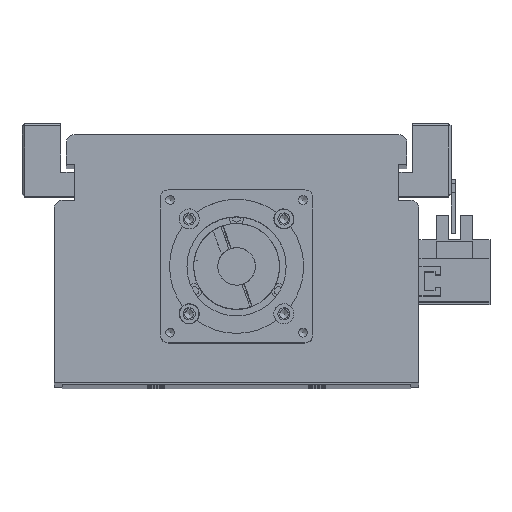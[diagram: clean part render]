
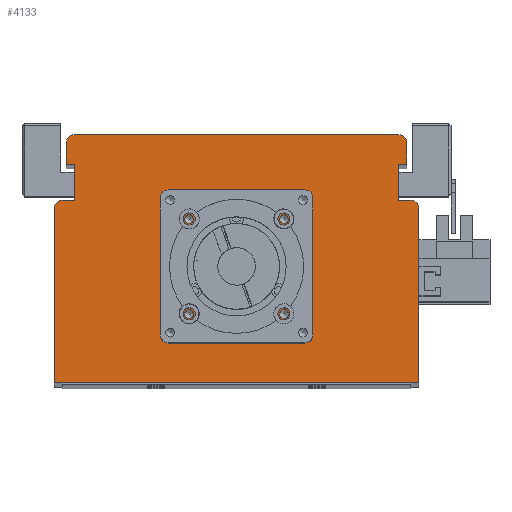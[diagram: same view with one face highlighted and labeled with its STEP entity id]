
A CAD part, top view. The second image highlights one B-rep face of the part: STEP entity #4133.
In plain terms, the highlighted planar face has unit normal (0, 0, 1).
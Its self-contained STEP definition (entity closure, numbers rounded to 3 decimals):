
#2691=CARTESIAN_POINT('',(19.321,61.5,995.));
#2692=VERTEX_POINT('',#2691);
#2693=CARTESIAN_POINT('',(17.7,61.5,995.));
#2694=DIRECTION('',(0.0,0.0,-1.0));
#2695=DIRECTION('',(1.0,0.0,0.0));
#2696=AXIS2_PLACEMENT_3D('',#2693,#2694,#2695);
#2697=CIRCLE('',#2696,1.621);
#2698=EDGE_CURVE('',#2692,#2692,#2697,.T.);
#2770=CARTESIAN_POINT('',(19.321,26.1,995.));
#2771=VERTEX_POINT('',#2770);
#2772=CARTESIAN_POINT('',(17.7,26.1,995.));
#2773=DIRECTION('',(0.0,0.0,-1.0));
#2774=DIRECTION('',(1.0,0.0,0.0));
#2775=AXIS2_PLACEMENT_3D('',#2772,#2773,#2774);
#2776=CIRCLE('',#2775,1.621);
#2777=EDGE_CURVE('',#2771,#2771,#2776,.T.);
#2849=CARTESIAN_POINT('',(-16.079,26.1,995.));
#2850=VERTEX_POINT('',#2849);
#2851=CARTESIAN_POINT('',(-17.7,26.1,995.));
#2852=DIRECTION('',(0.0,0.0,-1.0));
#2853=DIRECTION('',(1.0,0.0,0.0));
#2854=AXIS2_PLACEMENT_3D('',#2851,#2852,#2853);
#2855=CIRCLE('',#2854,1.621);
#2856=EDGE_CURVE('',#2850,#2850,#2855,.T.);
#2928=CARTESIAN_POINT('',(-16.079,61.5,995.));
#2929=VERTEX_POINT('',#2928);
#2930=CARTESIAN_POINT('',(-17.7,61.5,995.));
#2931=DIRECTION('',(0.0,0.0,-1.0));
#2932=DIRECTION('',(1.0,0.0,0.0));
#2933=AXIS2_PLACEMENT_3D('',#2930,#2931,#2932);
#2934=CIRCLE('',#2933,1.621);
#2935=EDGE_CURVE('',#2929,#2929,#2934,.T.);
#2969=CARTESIAN_POINT('',(26.5,43.8,995.));
#2970=VERTEX_POINT('',#2969);
#2971=CARTESIAN_POINT('',(24.5,43.8,995.));
#2972=DIRECTION('',(0.0,0.0,-1.0));
#2973=DIRECTION('',(1.0,0.0,0.0));
#2974=AXIS2_PLACEMENT_3D('',#2971,#2972,#2973);
#2975=CIRCLE('',#2974,2.0);
#2976=EDGE_CURVE('',#2970,#2970,#2975,.T.);
#3018=CARTESIAN_POINT('',(-22.5,43.8,995.));
#3019=VERTEX_POINT('',#3018);
#3020=CARTESIAN_POINT('',(-24.5,43.8,995.));
#3021=DIRECTION('',(0.0,0.0,-1.0));
#3022=DIRECTION('',(1.0,0.0,0.0));
#3023=AXIS2_PLACEMENT_3D('',#3020,#3021,#3022);
#3024=CIRCLE('',#3023,2.0);
#3025=EDGE_CURVE('',#3019,#3019,#3024,.T.);
#3949=CARTESIAN_POINT('',(21.05,43.8,995.));
#3950=VERTEX_POINT('',#3949);
#3951=CARTESIAN_POINT('',(0.0,43.8,995.));
#3952=DIRECTION('',(0.0,0.0,-1.0));
#3953=DIRECTION('',(-1.0,0.0,0.0));
#3954=AXIS2_PLACEMENT_3D('',#3951,#3952,#3953);
#3955=CIRCLE('',#3954,21.05);
#3956=EDGE_CURVE('',#3950,#3950,#3955,.T.);
#3973=CARTESIAN_POINT('',(0.,29.533,995.));
#3974=DIRECTION('',(0.0,0.0,1.0));
#3975=DIRECTION('',(1.0,0.0,0.0));
#3976=AXIS2_PLACEMENT_3D('',#3973,#3974,#3975);
#3977=PLANE('',#3976);
#3978=CARTESIAN_POINT('',(-65.,68.5,995.));
#3979=VERTEX_POINT('',#3978);
#3980=CARTESIAN_POINT('',(-60.5,68.5,995.0));
#3981=VERTEX_POINT('',#3980);
#3982=CARTESIAN_POINT('',(-65.,68.5,995.));
#3983=DIRECTION('',(1.0,0.0,0.0));
#3984=VECTOR('',#3983,4.5);
#3985=LINE('',#3982,#3984);
#3986=EDGE_CURVE('',#3979,#3981,#3985,.T.);
#3987=ORIENTED_EDGE('',*,*,#3986,.F.);
#3988=CARTESIAN_POINT('',(-68.,65.5,995.));
#3989=VERTEX_POINT('',#3988);
#3990=CARTESIAN_POINT('',(-65.,65.5,995.0));
#3991=DIRECTION('',(0.0,0.0,-1.0));
#3992=DIRECTION('',(0.0,1.0,0.0));
#3993=AXIS2_PLACEMENT_3D('',#3990,#3991,#3992);
#3994=CIRCLE('',#3993,3.);
#3995=EDGE_CURVE('',#3989,#3979,#3994,.T.);
#3996=ORIENTED_EDGE('',*,*,#3995,.F.);
#3997=CARTESIAN_POINT('',(-68.0,0.5,995.));
#3998=VERTEX_POINT('',#3997);
#3999=CARTESIAN_POINT('',(-68.0,0.5,995.));
#4000=DIRECTION('',(0.0,1.0,0.0));
#4001=VECTOR('',#4000,65.0);
#4002=LINE('',#3999,#4001);
#4003=EDGE_CURVE('',#3998,#3989,#4002,.T.);
#4004=ORIENTED_EDGE('',*,*,#4003,.F.);
#4005=CARTESIAN_POINT('',(68.0,0.5,995.));
#4006=VERTEX_POINT('',#4005);
#4007=CARTESIAN_POINT('',(68.0,0.5,995.));
#4008=DIRECTION('',(-1.0,0.0,0.0));
#4009=VECTOR('',#4008,136.0);
#4010=LINE('',#4007,#4009);
#4011=EDGE_CURVE('',#4006,#3998,#4010,.T.);
#4012=ORIENTED_EDGE('',*,*,#4011,.F.);
#4013=CARTESIAN_POINT('',(68.0,65.5,995.));
#4014=VERTEX_POINT('',#4013);
#4015=CARTESIAN_POINT('',(68.0,65.5,995.));
#4016=DIRECTION('',(0.0,-1.0,0.0));
#4017=VECTOR('',#4016,65.0);
#4018=LINE('',#4015,#4017);
#4019=EDGE_CURVE('',#4014,#4006,#4018,.T.);
#4020=ORIENTED_EDGE('',*,*,#4019,.F.);
#4021=CARTESIAN_POINT('',(65.,68.5,995.));
#4022=VERTEX_POINT('',#4021);
#4023=CARTESIAN_POINT('',(65.,65.5,995.0));
#4024=DIRECTION('',(0.0,0.0,-1.0));
#4025=DIRECTION('',(1.0,0.0,0.0));
#4026=AXIS2_PLACEMENT_3D('',#4023,#4024,#4025);
#4027=CIRCLE('',#4026,3.);
#4028=EDGE_CURVE('',#4022,#4014,#4027,.T.);
#4029=ORIENTED_EDGE('',*,*,#4028,.F.);
#4030=CARTESIAN_POINT('',(60.5,68.5,995.0));
#4031=VERTEX_POINT('',#4030);
#4032=CARTESIAN_POINT('',(60.5,68.5,995.0));
#4033=DIRECTION('',(1.0,0.0,0.0));
#4034=VECTOR('',#4033,4.5);
#4035=LINE('',#4032,#4034);
#4036=EDGE_CURVE('',#4031,#4022,#4035,.T.);
#4037=ORIENTED_EDGE('',*,*,#4036,.F.);
#4038=CARTESIAN_POINT('',(60.5,82.,995.));
#4039=VERTEX_POINT('',#4038);
#4040=CARTESIAN_POINT('',(60.5,82.,995.));
#4041=DIRECTION('',(0.0,-1.0,0.0));
#4042=VECTOR('',#4041,13.5);
#4043=LINE('',#4040,#4042);
#4044=EDGE_CURVE('',#4039,#4031,#4043,.T.);
#4045=ORIENTED_EDGE('',*,*,#4044,.F.);
#4046=CARTESIAN_POINT('',(63.5,82.,995.));
#4047=VERTEX_POINT('',#4046);
#4048=CARTESIAN_POINT('',(63.5,82.,995.));
#4049=DIRECTION('',(-1.0,0.0,0.0));
#4050=VECTOR('',#4049,3.0);
#4051=LINE('',#4048,#4050);
#4052=EDGE_CURVE('',#4047,#4039,#4051,.T.);
#4053=ORIENTED_EDGE('',*,*,#4052,.F.);
#4054=CARTESIAN_POINT('',(63.5,90.0,995.));
#4055=VERTEX_POINT('',#4054);
#4056=CARTESIAN_POINT('',(63.5,90.0,995.));
#4057=DIRECTION('',(0.0,-1.0,0.0));
#4058=VECTOR('',#4057,8.);
#4059=LINE('',#4056,#4058);
#4060=EDGE_CURVE('',#4055,#4047,#4059,.T.);
#4061=ORIENTED_EDGE('',*,*,#4060,.F.);
#4062=CARTESIAN_POINT('',(60.5,93.,995.));
#4063=VERTEX_POINT('',#4062);
#4064=CARTESIAN_POINT('',(60.5,90.0,995.0));
#4065=DIRECTION('',(0.0,0.0,-1.0));
#4066=DIRECTION('',(1.0,0.0,0.0));
#4067=AXIS2_PLACEMENT_3D('',#4064,#4065,#4066);
#4068=CIRCLE('',#4067,3.);
#4069=EDGE_CURVE('',#4063,#4055,#4068,.T.);
#4070=ORIENTED_EDGE('',*,*,#4069,.F.);
#4071=CARTESIAN_POINT('',(-60.5,93.0,995.));
#4072=VERTEX_POINT('',#4071);
#4073=CARTESIAN_POINT('',(-60.5,93.0,995.));
#4074=DIRECTION('',(1.0,0.0,0.0));
#4075=VECTOR('',#4074,121.0);
#4076=LINE('',#4073,#4075);
#4077=EDGE_CURVE('',#4072,#4063,#4076,.T.);
#4078=ORIENTED_EDGE('',*,*,#4077,.F.);
#4079=CARTESIAN_POINT('',(-63.5,90.0,995.));
#4080=VERTEX_POINT('',#4079);
#4081=CARTESIAN_POINT('',(-60.5,90.0,995.0));
#4082=DIRECTION('',(0.0,0.0,-1.0));
#4083=DIRECTION('',(0.0,1.0,0.0));
#4084=AXIS2_PLACEMENT_3D('',#4081,#4082,#4083);
#4085=CIRCLE('',#4084,3.);
#4086=EDGE_CURVE('',#4080,#4072,#4085,.T.);
#4087=ORIENTED_EDGE('',*,*,#4086,.F.);
#4088=CARTESIAN_POINT('',(-63.5,82.,995.));
#4089=VERTEX_POINT('',#4088);
#4090=CARTESIAN_POINT('',(-63.5,82.,995.));
#4091=DIRECTION('',(0.0,1.0,0.0));
#4092=VECTOR('',#4091,8.);
#4093=LINE('',#4090,#4092);
#4094=EDGE_CURVE('',#4089,#4080,#4093,.T.);
#4095=ORIENTED_EDGE('',*,*,#4094,.F.);
#4096=CARTESIAN_POINT('',(-60.5,82.,995.));
#4097=VERTEX_POINT('',#4096);
#4098=CARTESIAN_POINT('',(-60.5,82.,995.));
#4099=DIRECTION('',(-1.0,0.0,0.0));
#4100=VECTOR('',#4099,3.);
#4101=LINE('',#4098,#4100);
#4102=EDGE_CURVE('',#4097,#4089,#4101,.T.);
#4103=ORIENTED_EDGE('',*,*,#4102,.F.);
#4104=CARTESIAN_POINT('',(-60.5,68.5,995.0));
#4105=DIRECTION('',(0.0,1.0,0.0));
#4106=VECTOR('',#4105,13.5);
#4107=LINE('',#4104,#4106);
#4108=EDGE_CURVE('',#3981,#4097,#4107,.T.);
#4109=ORIENTED_EDGE('',*,*,#4108,.F.);
#4110=EDGE_LOOP('',(#3987,#3996,#4004,#4012,#4020,#4029,#4037,#4045,#4053,#4061,#4070,#4078,#4087,#4095,#4103,#4109));
#4111=FACE_OUTER_BOUND('',#4110,.T.);
#4112=ORIENTED_EDGE('',*,*,#2698,.T.);
#4113=EDGE_LOOP('',(#4112));
#4114=FACE_BOUND('',#4113,.T.);
#4115=ORIENTED_EDGE('',*,*,#2777,.T.);
#4116=EDGE_LOOP('',(#4115));
#4117=FACE_BOUND('',#4116,.T.);
#4118=ORIENTED_EDGE('',*,*,#2856,.T.);
#4119=EDGE_LOOP('',(#4118));
#4120=FACE_BOUND('',#4119,.T.);
#4121=ORIENTED_EDGE('',*,*,#2935,.T.);
#4122=EDGE_LOOP('',(#4121));
#4123=FACE_BOUND('',#4122,.T.);
#4124=ORIENTED_EDGE('',*,*,#2976,.T.);
#4125=EDGE_LOOP('',(#4124));
#4126=FACE_BOUND('',#4125,.T.);
#4127=ORIENTED_EDGE('',*,*,#3025,.T.);
#4128=EDGE_LOOP('',(#4127));
#4129=FACE_BOUND('',#4128,.T.);
#4130=ORIENTED_EDGE('',*,*,#3956,.T.);
#4131=EDGE_LOOP('',(#4130));
#4132=FACE_BOUND('',#4131,.T.);
#4133=ADVANCED_FACE('',(#4111,#4114,#4117,#4120,#4123,#4126,#4129,#4132),#3977,.T.);
